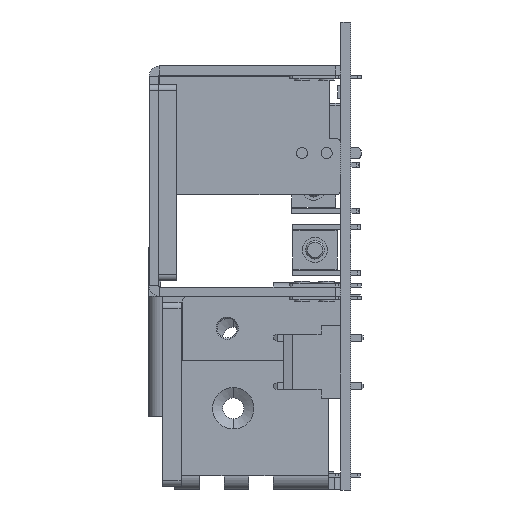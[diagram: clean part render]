
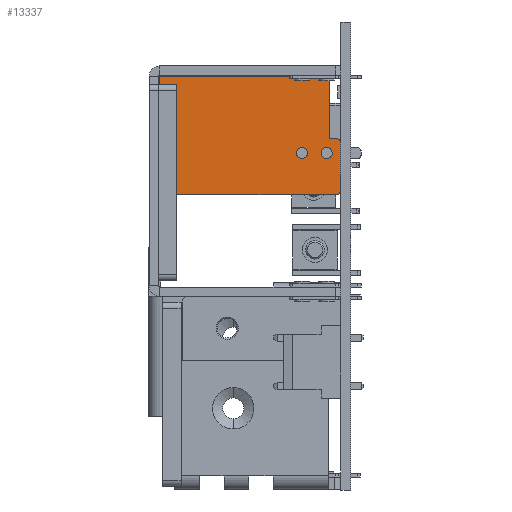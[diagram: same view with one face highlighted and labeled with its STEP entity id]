
A CAD part, left-side view. The second image highlights one B-rep face of the part: STEP entity #13337.
In plain terms, the highlighted planar face has unit normal (-1, 0, 0).
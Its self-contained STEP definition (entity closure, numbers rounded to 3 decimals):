
#11791=CARTESIAN_POINT('',(2.1,-28.9,-14.2));
#11792=DIRECTION('',(-1.,0.,0.));
#11793=DIRECTION('',(0.,-1.,0.));
#11794=AXIS2_PLACEMENT_3D('',#11791,#11792,#11793);
#11799=CARTESIAN_POINT('',(2.1,-28.9,-14.2));
#11800=DIRECTION('',(-1.,0.,0.));
#11801=DIRECTION('',(0.,1.,0.));
#11802=AXIS2_PLACEMENT_3D('',#11799,#11800,#11801);
#11807=CARTESIAN_POINT('',(2.1,-24.9,-14.2));
#11808=DIRECTION('',(-1.,0.,0.));
#11809=DIRECTION('',(0.,-1.,0.));
#11810=AXIS2_PLACEMENT_3D('',#11807,#11808,#11809);
#11815=CARTESIAN_POINT('',(2.1,-24.9,-14.2));
#11816=DIRECTION('',(-1.,0.,0.));
#11817=DIRECTION('',(0.,1.,0.));
#11818=AXIS2_PLACEMENT_3D('',#11815,#11816,#11817);
#11823=CARTESIAN_POINT('',(2.1,-2.7,-20.));
#11824=DIRECTION('',(-1.,0.,0.));
#11825=DIRECTION('',(0.,1.,0.));
#11826=AXIS2_PLACEMENT_3D('',#11823,#11824,#11825);
#11831=DIRECTION('',(0.,-1.,0.));
#11832=VECTOR('',#11831,27.6);
#11833=CARTESIAN_POINT('',(2.1,-1.7,-1.7));
#11834=LINE('',#11833,#11832);
#11838=DIRECTION('',(0.,-1.,0.));
#11839=VECTOR('',#11838,1.);
#11840=CARTESIAN_POINT('',(2.1,-29.3,-11.8));
#11841=LINE('',#11840,#11839);
#11845=CARTESIAN_POINT('',(2.1,-30.3,-12.8));
#11846=DIRECTION('',(1.,0.,0.));
#11847=DIRECTION('',(0.,0.,1.));
#11848=AXIS2_PLACEMENT_3D('',#11845,#11846,#11847);
#11853=CARTESIAN_POINT('',(2.1,-30.3,-20.));
#11854=DIRECTION('',(1.,0.,0.));
#11855=DIRECTION('',(0.,-1.,0.));
#11856=AXIS2_PLACEMENT_3D('',#11853,#11854,#11855);
#11951=DIRECTION('',(0.,0.,-1.));
#11952=VECTOR('',#11951,18.3);
#11953=CARTESIAN_POINT('',(2.1,-1.7,-1.7));
#11954=LINE('',#11953,#11952);
#12111=DIRECTION('',(0.,0.,1.));
#12112=VECTOR('',#12111,10.1);
#12113=CARTESIAN_POINT('',(2.1,-29.3,-11.8));
#12114=LINE('',#12113,#12112);
#12153=DIRECTION('',(0.,0.,1.));
#12154=VECTOR('',#12153,7.2);
#12155=CARTESIAN_POINT('',(2.1,-31.3,-20.));
#12156=LINE('',#12155,#12154);
#12181=DIRECTION('',(0.,-1.,0.));
#12182=VECTOR('',#12181,27.6);
#12183=CARTESIAN_POINT('',(2.1,-2.7,-21.));
#12184=LINE('',#12183,#12182);
#12824=CARTESIAN_POINT('',(2.1,-29.3,-1.7));
#12825=VERTEX_POINT('',#12824);
#12828=CARTESIAN_POINT('',(2.1,-1.7,-1.7));
#12829=VERTEX_POINT('',#12828);
#12854=CARTESIAN_POINT('',(2.1,-29.3,-11.8));
#12855=VERTEX_POINT('',#12854);
#12856=CARTESIAN_POINT('',(2.1,-30.3,-11.8));
#12857=VERTEX_POINT('',#12856);
#12858=CARTESIAN_POINT('',(2.1,-31.3,-12.8));
#12859=VERTEX_POINT('',#12858);
#12860=CARTESIAN_POINT('',(2.1,-31.3,-20.));
#12861=VERTEX_POINT('',#12860);
#12862=CARTESIAN_POINT('',(2.1,-30.3,-21.));
#12863=VERTEX_POINT('',#12862);
#12962=CARTESIAN_POINT('',(2.1,-29.8,-14.2));
#12963=CARTESIAN_POINT('',(2.1,-28.,-14.2));
#12964=VERTEX_POINT('',#12962);
#12965=VERTEX_POINT('',#12963);
#12966=CARTESIAN_POINT('',(2.1,-25.8,-14.2));
#12967=CARTESIAN_POINT('',(2.1,-24.,-14.2));
#12968=VERTEX_POINT('',#12966);
#12969=VERTEX_POINT('',#12967);
#12994=CARTESIAN_POINT('',(2.1,-1.7,-20.));
#12995=CARTESIAN_POINT('',(2.1,-2.7,-21.));
#12996=VERTEX_POINT('',#12994);
#12997=VERTEX_POINT('',#12995);
#13301=CARTESIAN_POINT('',(2.1,-31.3,0.));
#13302=DIRECTION('',(1.,0.,0.));
#13303=DIRECTION('',(0.,-1.,0.));
#13304=AXIS2_PLACEMENT_3D('',#13301,#13302,#13303);
#13305=PLANE('',#13304);
#13306=ORIENTED_EDGE('',*,*,#13291,.F.);
#13308=ORIENTED_EDGE('',*,*,#13307,.F.);
#13310=ORIENTED_EDGE('',*,*,#13309,.T.);
#13312=ORIENTED_EDGE('',*,*,#13311,.F.);
#13314=ORIENTED_EDGE('',*,*,#13313,.T.);
#13316=ORIENTED_EDGE('',*,*,#13315,.T.);
#13318=ORIENTED_EDGE('',*,*,#13317,.F.);
#13320=ORIENTED_EDGE('',*,*,#13319,.T.);
#13322=ORIENTED_EDGE('',*,*,#13321,.F.);
#13323=EDGE_LOOP('',(#13306,#13308,#13310,#13312,#13314,#13316,#13318,#13320,
#13322));
#13324=FACE_OUTER_BOUND('',#13323,.F.);
#13326=ORIENTED_EDGE('',*,*,#13325,.T.);
#13328=ORIENTED_EDGE('',*,*,#13327,.T.);
#13329=EDGE_LOOP('',(#13326,#13328));
#13330=FACE_BOUND('',#13329,.F.);
#13332=ORIENTED_EDGE('',*,*,#13331,.T.);
#13334=ORIENTED_EDGE('',*,*,#13333,.T.);
#13335=EDGE_LOOP('',(#13332,#13334));
#13336=FACE_BOUND('',#13335,.F.);
#11795=CIRCLE('',#11794,0.9);
#11803=CIRCLE('',#11802,0.9);
#11811=CIRCLE('',#11810,0.9);
#11819=CIRCLE('',#11818,0.9);
#11827=CIRCLE('',#11826,1.);
#11849=CIRCLE('',#11848,1.);
#11857=CIRCLE('',#11856,1.);
#13291=EDGE_CURVE('',#12996,#12997,#11827,.T.);
#13307=EDGE_CURVE('',#12829,#12996,#11954,.T.);
#13309=EDGE_CURVE('',#12829,#12825,#11834,.T.);
#13311=EDGE_CURVE('',#12855,#12825,#12114,.T.);
#13313=EDGE_CURVE('',#12855,#12857,#11841,.T.);
#13315=EDGE_CURVE('',#12857,#12859,#11849,.T.);
#13317=EDGE_CURVE('',#12861,#12859,#12156,.T.);
#13319=EDGE_CURVE('',#12861,#12863,#11857,.T.);
#13321=EDGE_CURVE('',#12997,#12863,#12184,.T.);
#13325=EDGE_CURVE('',#12968,#12969,#11811,.T.);
#13327=EDGE_CURVE('',#12969,#12968,#11819,.T.);
#13331=EDGE_CURVE('',#12964,#12965,#11795,.T.);
#13333=EDGE_CURVE('',#12965,#12964,#11803,.T.);
#13337=ADVANCED_FACE('',(#13324,#13330,#13336),#13305,.F.);
